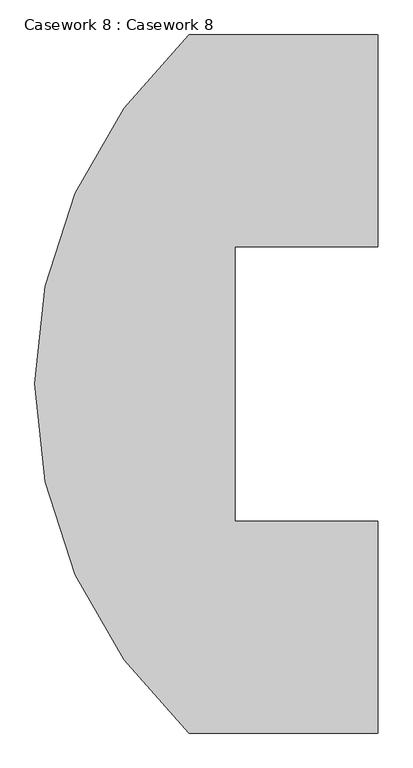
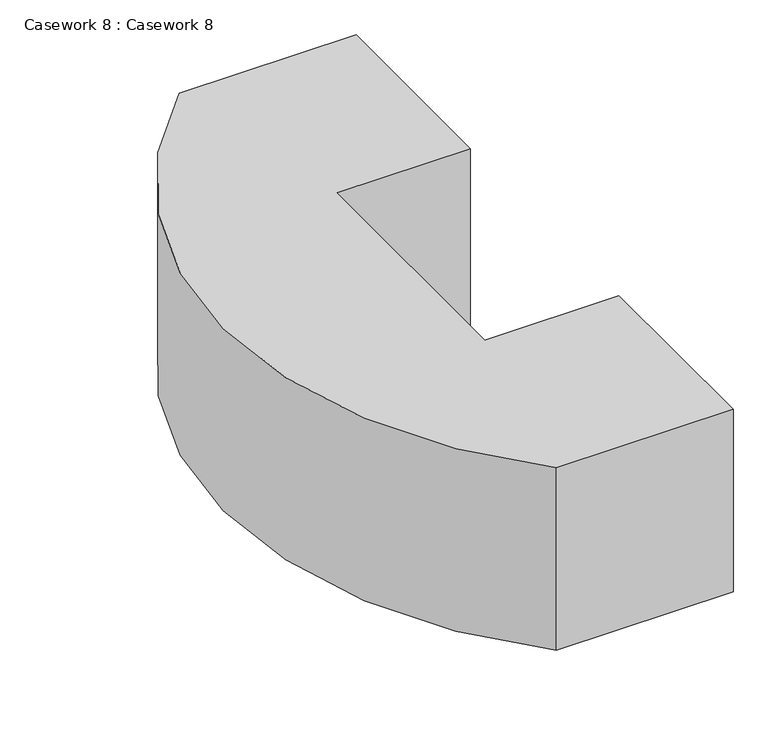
"""IFC4 building model written with IfcOpenShell, lengths in millimetres: furniture geometry, Casework 8 : Casework 8."""

from ifc_helpers import new_model, si_unit, point, frame, frame_2d, origin, place, context, project, spatial, polyline, circle_curve, trimmed, segment, composite_curve, outline, extrude, source, transform, mapped, element, save


def casework_8_casework_8_02e97182(model_context):
    return source(origin(), model_context, "Body", "SweptSolid", [
        extrude(outline(composite_curve([segment(polyline([(965.2, 8140.7), (1803.4, 8140.7), (1803.4, 7200.9), (1168.4, 7200.9), (1168.4, 5981.7), (1803.4, 5981.7), (1803.4, 5041.9), (965.2, 5041.9)]), True, "CONTINUOUS"), segment(trimmed(circle_curve(frame_2d((2372.2291519, 6591.3)), 2092.9336813), [point((965.2, 5041.9))], [point((965.2, 8140.7))], False, "CARTESIAN"), True, "CONTINUOUS")], self_intersect=False)), frame((0.0, 0.0, 3348.0), z_axis=(0.0, 0.0, 1.0), x_axis=(1.0, 0.0, 0.0)), (0.0, 0.0, 1.0), 914.4),
    ])


if __name__ == "__main__":
    model = new_model("IFC4")
    model_context = context("Model", 3, world=origin())
    ifc_project = project(units=[si_unit("LENGTHUNIT", "METRE", prefix="MILLI")], contexts=[model_context])
    site = spatial("IfcSite", under=ifc_project)
    building = spatial("IfcBuilding", under=site)
    placement = place(None, origin())
    casework_8_casework_8_shape = casework_8_casework_8_02e97182(model_context)
    element("IfcFurniture", 1, ObjectType="Casework 8 : Casework 8", at=placement, inside=building, context=model_context, shape_type="MappedRepresentation", body=[
        mapped(casework_8_casework_8_shape, transform((0.0, 0.0, 0.0), x_axis=(1.0, 0.0, 0.0), y_axis=(0.0, 1.0, 0.0), z_axis=(0.0, 0.0, 1.0))),
    ])
    save(model, "model.ifc")
